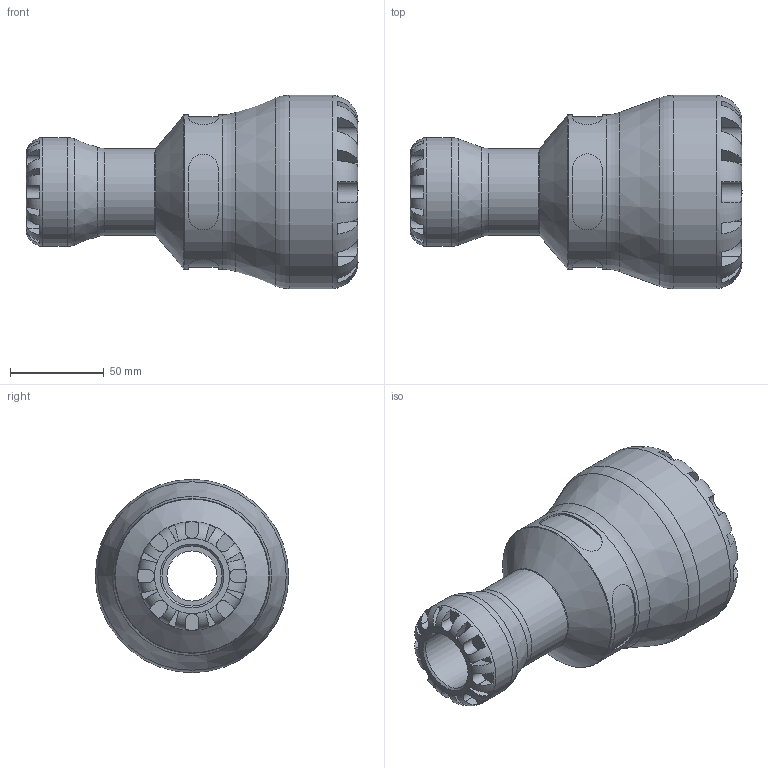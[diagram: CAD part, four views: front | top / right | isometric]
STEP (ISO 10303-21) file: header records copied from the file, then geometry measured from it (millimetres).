
FILE_DESCRIPTION(/* description */ ('PLASSON G-PLASS REDUCING COUPLING 63 x 32'),/* implementation_level */ '2;1');
FILE_NAME(/* name */ 'C:\Dropbox\KIMPROJECTS-Inventor 2019\99-16-3568-Processing\S1\151100\stp\151100063032.stp',/* time_stamp */ '2023-10-17T19:45:24+03:00',/* author */ ('KIM'),/* organization */ (''),/* preprocessor_version */ 'ST-DEVELOPER v17.2',/* originating_system */ 'Autodesk Inventor 2019',/* authorisation */ '');
FILE_SCHEMA (('AUTOMOTIVE_DESIGN { 1 0 10303 214 3 1 1 }'));
Length unit declared in the file: millimetre
Products named in the file (1): 151100063032
Bounding box: 177 x 103 x 103 mm (x, y, z)
Volume: 445551.7 mm3; surface area: 83125.1 mm2
Topology: 1 solids, 1 shells, 172 faces, 465 edges, 300 vertices
Faces by surface type: plane 108, cylinder 50, torus 8, cone 6
Full cylindrical faces by diameter (mm): 32 x1, 46.4 x1, 58 x1, 63 x1, 82.4 x1, 103 x1
Entity records: 6968 total; most frequent: CARTESIAN_POINT 2494, ORIENTED_EDGE 930, DIRECTION 895, EDGE_CURVE 465, AXIS2_PLACEMENT_3D 369, VERTEX_POINT 300, CIRCLE 196, EDGE_LOOP 179
